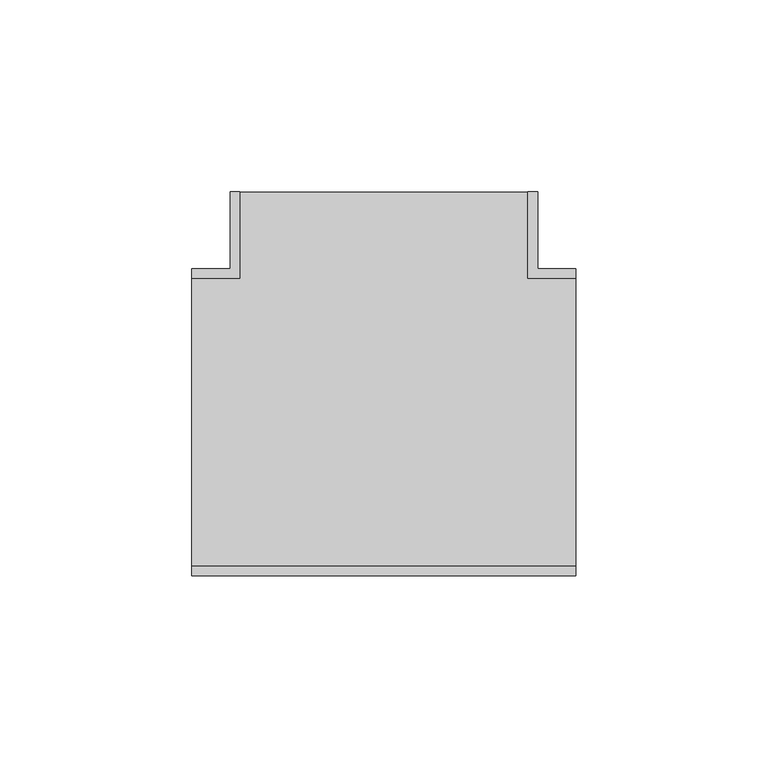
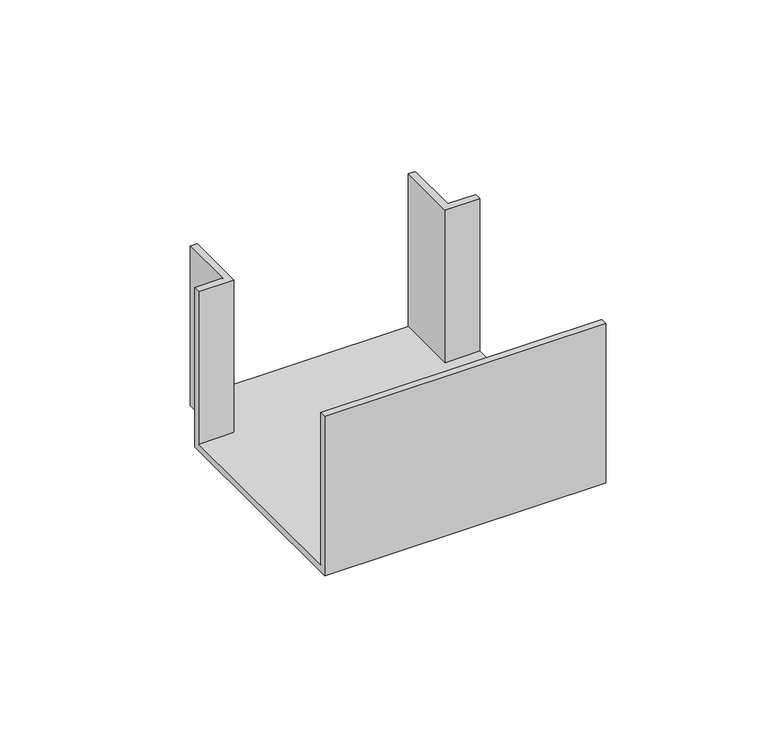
"""IFC4 building model written with IfcOpenShell, lengths in millimetres: cable carrier fitting geometry, КНС_ТройникNTAN_ILC_DKC : Тройник/отвод."""

from ifc_helpers import new_model, si_unit, origin, place, context, project, spatial, faceted_brep, source, transform, mapped, element, save


def cable_carrier_fitting_7acc3acb(model_context):
    return source(origin(), model_context, "Body", "Brep", [
        faceted_brep([(50.0, -37.5, -27.5), (50.0, 37.5, -27.5), (37.5, 37.5, -27.5), (37.5, 60.0, -27.5), (-37.5, 60.0, -27.5), (-37.5, 37.5, -27.5), (-50.0, 37.5, -27.5), (-50.0, -37.5, -27.5), (50.0, -40.0, -30.0), (-50.0, -40.0, -30.0), (-50.0, 40.0, -30.0), (-40.0, 40.0, -30.0), (-40.0, 60.0, -30.0), (40.0, 60.0, -30.0), (40.0, 40.0, -30.0), (50.0, 40.0, -30.0), (50.0, 40.0, 30.0), (50.0, 37.5, 30.0), (50.0, -37.5, 30.0), (50.0, -40.0, 30.0), (40.0, 40.0, 30.0), (40.0, 60.0, 30.0), (-40.0, 60.0, 30.0), (-37.5, 60.0, 30.0), (37.5, 60.0, 30.0), (-40.0, 40.0, 30.0), (-50.0, 40.0, 30.0), (-50.0, -40.0, 30.0), (-50.0, -37.5, 30.0), (-50.0, 37.5, 30.0), (37.5, 37.5, 30.0), (-37.5, 37.5, 30.0)], [[[0, 1, 2, 3, 4, 5, 6, 7]], [[8, 9, 10, 11, 12, 13, 14, 15]], [[8, 15, 16, 17, 1, 0, 18, 19]], [[16, 15, 14, 20]], [[20, 14, 13, 21]], [[21, 13, 12, 22, 23, 4, 3, 24]], [[22, 12, 11, 25]], [[25, 11, 10, 26]], [[26, 10, 9, 27, 28, 7, 6, 29]], [[27, 9, 8, 19]], [[20, 21, 24, 30, 17, 16]], [[25, 26, 29, 31, 23, 22]], [[27, 19, 18, 28]], [[31, 29, 6, 5]], [[23, 31, 5, 4]], [[30, 24, 3, 2]], [[17, 30, 2, 1]], [[28, 18, 0, 7]]]),
    ])


if __name__ == "__main__":
    model = new_model("IFC4")
    model_context = context("Model", 3, world=origin())
    ifc_project = project(units=[si_unit("LENGTHUNIT", "METRE", prefix="MILLI")], contexts=[model_context])
    site = spatial("IfcSite", under=ifc_project)
    building = spatial("IfcBuilding", under=site)
    placement = place(None, origin())
    cable_carrier_fitting_shape = cable_carrier_fitting_7acc3acb(model_context)
    element("IfcCableCarrierFitting", 1, ObjectType="КНС_ТройникNTAN_ILC_DKC : Тройник/отвод", at=placement, inside=building, context=model_context, shape_type="MappedRepresentation", body=[
        mapped(cable_carrier_fitting_shape, transform((0.0, 0.0, 0.0), x_axis=(1.0, 0.0, 0.0), y_axis=(0.0, 1.0, 0.0), z_axis=(0.0, 0.0, 1.0))),
    ])
    save(model, "model.ifc")
